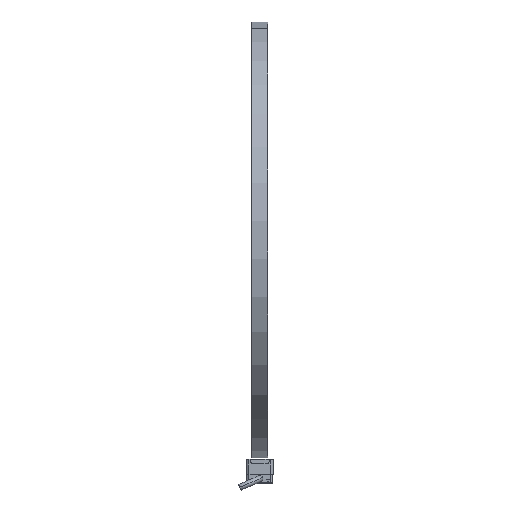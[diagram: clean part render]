
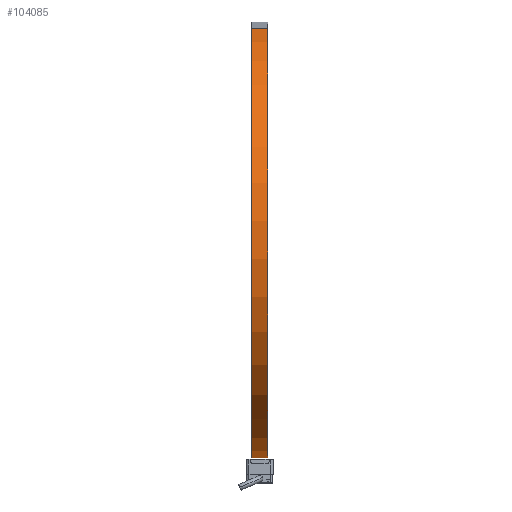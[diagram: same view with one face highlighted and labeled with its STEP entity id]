
A CAD part, left-side view. The second image highlights one B-rep face of the part: STEP entity #104085.
In plain terms, the highlighted cylindrical face has radius 162.75 mm (diameter 325.5 mm), a partial arc.
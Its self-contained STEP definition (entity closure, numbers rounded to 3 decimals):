
#1626 = DIRECTION ( 'NONE',  ( 0., -1., 0. ) ) ;
#5288 = DIRECTION ( 'NONE',  ( 0., -1., 0. ) ) ;
#10732 = VERTEX_POINT ( 'NONE', #82547 ) ;
#18658 = CARTESIAN_POINT ( 'NONE',  ( 0., 12., 0. ) ) ;
#19209 = FACE_OUTER_BOUND ( 'NONE', #106363, .T. ) ;
#20843 = CYLINDRICAL_SURFACE ( 'NONE', #46183, 162.75 ) ;
#24361 = LINE ( 'NONE', #74497, #47100 ) ;
#26824 = CARTESIAN_POINT ( 'NONE',  ( -42.123, 0., 157.204 ) ) ;
#29467 = VERTEX_POINT ( 'NONE', #84393 ) ;
#30337 = AXIS2_PLACEMENT_3D ( 'NONE', #18658, #1626, #51879 ) ;
#31100 = ORIENTED_EDGE ( 'NONE', *, *, #75568, .T. ) ;
#43694 = DIRECTION ( 'NONE',  ( 0., -1., 0. ) ) ;
#46183 = AXIS2_PLACEMENT_3D ( 'NONE', #80157, #62750, #73054 ) ;
#46776 = CARTESIAN_POINT ( 'NONE',  ( 0., 0., 0. ) ) ;
#47100 = VECTOR ( 'NONE', #57662, 1000. ) ;
#49330 = ORIENTED_EDGE ( 'NONE', *, *, #96273, .T. ) ;
#49454 = CARTESIAN_POINT ( 'NONE',  ( -42.123, 0., 157.204 ) ) ;
#51879 = DIRECTION ( 'NONE',  ( 0.259, 0., -0.966 ) ) ;
#52371 = CARTESIAN_POINT ( 'NONE',  ( -42.123, 12., 157.204 ) ) ;
#57662 = DIRECTION ( 'NONE',  ( 0., -1., 0. ) ) ;
#62750 = DIRECTION ( 'NONE',  ( 0., -1., 0. ) ) ;
#67214 = LINE ( 'NONE', #26824, #71376 ) ;
#71376 = VECTOR ( 'NONE', #43694, 1000. ) ;
#71881 = DIRECTION ( 'NONE',  ( 0.259, 0., -0.966 ) ) ;
#73054 = DIRECTION ( 'NONE',  ( 0.259, 0., -0.966 ) ) ;
#74497 = CARTESIAN_POINT ( 'NONE',  ( 42.123, 0., -157.204 ) ) ;
#75568 = EDGE_CURVE ( 'NONE', #76368, #10732, #82529, .T. ) ;
#76368 = VERTEX_POINT ( 'NONE', #52371 ) ;
#77202 = ORIENTED_EDGE ( 'NONE', *, *, #82897, .F. ) ;
#79688 = ORIENTED_EDGE ( 'NONE', *, *, #91072, .F. ) ;
#80157 = CARTESIAN_POINT ( 'NONE',  ( 0., 0., 0. ) ) ;
#82529 = CIRCLE ( 'NONE', #30337, 162.75 ) ;
#82547 = CARTESIAN_POINT ( 'NONE',  ( 42.123, 12., -157.204 ) ) ;
#82897 = EDGE_CURVE ( 'NONE', #76368, #105224, #67214, .T. ) ;
#84393 = CARTESIAN_POINT ( 'NONE',  ( 42.123, 0., -157.204 ) ) ;
#87567 = AXIS2_PLACEMENT_3D ( 'NONE', #46776, #5288, #71881 ) ;
#91072 = EDGE_CURVE ( 'NONE', #105224, #29467, #94530, .T. ) ;
#94530 = CIRCLE ( 'NONE', #87567, 162.75 ) ;
#96273 = EDGE_CURVE ( 'NONE', #10732, #29467, #24361, .T. ) ;
#104085 = ADVANCED_FACE ( 'NONE', ( #19209 ), #20843, .T. ) ;
#105224 = VERTEX_POINT ( 'NONE', #49454 ) ;
#106363 = EDGE_LOOP ( 'NONE', ( #77202, #31100, #49330, #79688 ) ) ;
